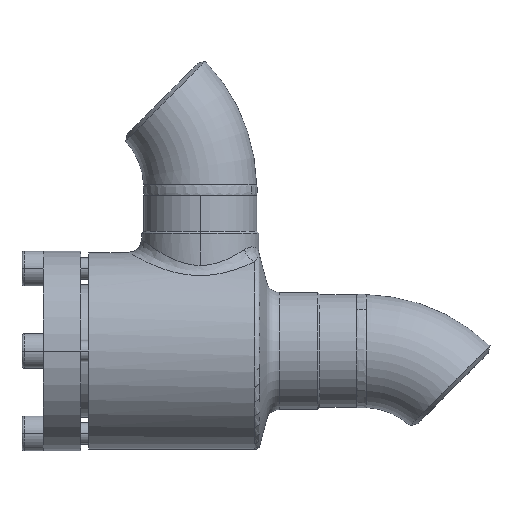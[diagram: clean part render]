
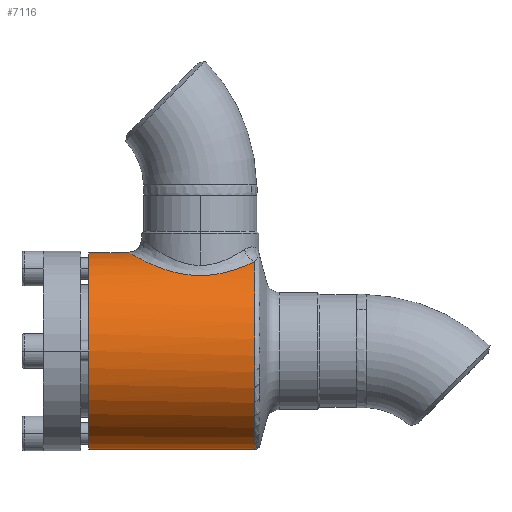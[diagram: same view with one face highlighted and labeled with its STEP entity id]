
A CAD part, left-side view. The second image highlights one B-rep face of the part: STEP entity #7116.
In plain terms, the highlighted cylindrical face has radius 37 mm (diameter 74 mm), a partial arc.
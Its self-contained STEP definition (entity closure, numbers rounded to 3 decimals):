
#16661 = ORIENTED_EDGE ( 'NONE', *, *, #16293, .F. ) ;
#17143 = ORIENTED_EDGE ( 'NONE', *, *, #11555, .T. ) ;
#17626 = EDGE_CURVE ( 'NONE', #18596, #11156, #7359, .T. ) ;
#17697 = CARTESIAN_POINT ( 'NONE',  ( -15.535, -62.446, 33.581 ) ) ;
#17749 = CIRCLE ( 'NONE', #17750, 37. ) ;
#17750 = AXIS2_PLACEMENT_3D ( 'NONE', #17751, #17752, #17753 ) ;
#17751 = CARTESIAN_POINT ( 'NONE',  ( 0., 0., 0. ) ) ;
#17752 = DIRECTION ( 'NONE',  ( 0., 1., 0. ) ) ;
#17753 = DIRECTION ( 'NONE',  ( 0., 0., 1. ) ) ;
#17925 = CIRCLE ( 'NONE', #17926, 37. ) ;
#17926 = AXIS2_PLACEMENT_3D ( 'NONE', #17927, #17928, #17929 ) ;
#17927 = CARTESIAN_POINT ( 'NONE',  ( 0., -62.446, 0. ) ) ;
#17928 = DIRECTION ( 'NONE',  ( 0., 1., 0. ) ) ;
#17929 = DIRECTION ( 'NONE',  ( 0., 0., -1. ) ) ;
#17970 = ORIENTED_EDGE ( 'NONE', *, *, #17626, .T. ) ;
#18043 = CARTESIAN_POINT ( 'NONE',  ( 0., -62.446, -37. ) ) ;
#18596 = VERTEX_POINT ( 'NONE', #17697 ) ;
#18924 = EDGE_CURVE ( 'NONE', #3840, #18596, #17925, .T. ) ;
#3840 = VERTEX_POINT ( 'NONE', #18043 ) ;
#4391 = CARTESIAN_POINT ( 'NONE',  ( 0., 0., 37. ) ) ;
#4533 = ORIENTED_EDGE ( 'NONE', *, *, #18924, .T. ) ;
#5753 = ORIENTED_EDGE ( 'NONE', *, *, #30718, .F. ) ;
#6683 = EDGE_LOOP ( 'NONE', ( #5753, #4533, #17970, #17143, #16661 ) ) ;
#7116 = ADVANCED_FACE ( 'NONE', ( #15416 ), #15417, .T. ) ;
#7359 = B_SPLINE_CURVE_WITH_KNOTS ( 'NONE', 3,
 ( #7360, #7361, #7379, #7380, #7381, #7382, #7383, #7384, #7385, #7386, #7387, #7388, #7389, #7390, #7391, #7392, #7393, #7394, #7411, #7412, #7413, #7414, #7415, #7416, #7417, #7418, #7419, #7420, #7421, #7422, #7423, #7424, #7425, #7426, #7446, #7447, #7448, #7449, #7450, #7451, #7452, #7453, #7454, #7455, #7456, #7457, #7458, #7459 ),
 .UNSPECIFIED., .F., .F.,
 ( 4, 2, 2, 2, 2, 2, 2, 2, 2, 2, 2, 2, 2, 2, 2, 2, 2, 2, 2, 2, 2, 2, 2, 4 ),
 ( 0., 0.004, 0.008, 0.01, 0.012, 0.016, 0.018, 0.02, 0.024, 0.026, 0.028, 0.03, 0.032, 0.036, 0.04, 0.042, 0.044, 0.048, 0.05, 0.052, 0.056, 0.058, 0.06, 0.064 ),
 .UNSPECIFIED. ) ;
#7360 = CARTESIAN_POINT ( 'NONE',  ( -15.535, -62.446, 33.581 ) ) ;
#7361 = CARTESIAN_POINT ( 'NONE',  ( -16.452, -61.548, 33.157 ) ) ;
#7379 = CARTESIAN_POINT ( 'NONE',  ( -17.286, -60.594, 32.725 ) ) ;
#7380 = CARTESIAN_POINT ( 'NONE',  ( -18.811, -58.577, 31.873 ) ) ;
#7381 = CARTESIAN_POINT ( 'NONE',  ( -19.502, -57.514, 31.452 ) ) ;
#7382 = CARTESIAN_POINT ( 'NONE',  ( -20.434, -55.835, 30.848 ) ) ;
#7383 = CARTESIAN_POINT ( 'NONE',  ( -20.728, -55.259, 30.65 ) ) ;
#7384 = CARTESIAN_POINT ( 'NONE',  ( -21.277, -54.088, 30.272 ) ) ;
#7385 = CARTESIAN_POINT ( 'NONE',  ( -21.531, -53.494, 30.092 ) ) ;
#7386 = CARTESIAN_POINT ( 'NONE',  ( -22.233, -51.685, 29.581 ) ) ;
#7387 = CARTESIAN_POINT ( 'NONE',  ( -22.624, -50.442, 29.28 ) ) ;
#7388 = CARTESIAN_POINT ( 'NONE',  ( -23.09, -48.518, 28.912 ) ) ;
#7389 = CARTESIAN_POINT ( 'NONE',  ( -23.225, -47.864, 28.803 ) ) ;
#7390 = CARTESIAN_POINT ( 'NONE',  ( -23.453, -46.548, 28.618 ) ) ;
#7391 = CARTESIAN_POINT ( 'NONE',  ( -23.545, -45.887, 28.542 ) ) ;
#7392 = CARTESIAN_POINT ( 'NONE',  ( -23.756, -43.897, 28.367 ) ) ;
#7393 = CARTESIAN_POINT ( 'NONE',  ( -23.81, -42.56, 28.321 ) ) ;
#7394 = CARTESIAN_POINT ( 'NONE',  ( -23.758, -40.538, 28.365 ) ) ;
#7411 = CARTESIAN_POINT ( 'NONE',  ( -23.718, -39.862, 28.398 ) ) ;
#7412 = CARTESIAN_POINT ( 'NONE',  ( -23.596, -38.528, 28.5 ) ) ;
#7413 = CARTESIAN_POINT ( 'NONE',  ( -23.513, -37.867, 28.569 ) ) ;
#7414 = CARTESIAN_POINT ( 'NONE',  ( -23.304, -36.555, 28.739 ) ) ;
#7415 = CARTESIAN_POINT ( 'NONE',  ( -23.179, -35.905, 28.84 ) ) ;
#7416 = CARTESIAN_POINT ( 'NONE',  ( -22.886, -34.615, 29.073 ) ) ;
#7417 = CARTESIAN_POINT ( 'NONE',  ( -22.718, -33.974, 29.205 ) ) ;
#7418 = CARTESIAN_POINT ( 'NONE',  ( -22.153, -32.08, 29.639 ) ) ;
#7419 = CARTESIAN_POINT ( 'NONE',  ( -21.7, -30.866, 29.975 ) ) ;
#7420 = CARTESIAN_POINT ( 'NONE',  ( -20.645, -28.526, 30.712 ) ) ;
#7421 = CARTESIAN_POINT ( 'NONE',  ( -20.043, -27.4, 31.112 ) ) ;
#7422 = CARTESIAN_POINT ( 'NONE',  ( -19.02, -25.773, 31.74 ) ) ;
#7423 = CARTESIAN_POINT ( 'NONE',  ( -18.66, -25.243, 31.953 ) ) ;
#7424 = CARTESIAN_POINT ( 'NONE',  ( -17.908, -24.217, 32.381 ) ) ;
#7425 = CARTESIAN_POINT ( 'NONE',  ( -17.515, -23.72, 32.595 ) ) ;
#7426 = CARTESIAN_POINT ( 'NONE',  ( -16.284, -22.274, 33.237 ) ) ;
#7446 = CARTESIAN_POINT ( 'NONE',  ( -15.395, -21.372, 33.662 ) ) ;
#7447 = CARTESIAN_POINT ( 'NONE',  ( -13.943, -20.115, 34.276 ) ) ;
#7448 = CARTESIAN_POINT ( 'NONE',  ( -13.437, -19.71, 34.478 ) ) ;
#7449 = CARTESIAN_POINT ( 'NONE',  ( -12.398, -18.947, 34.865 ) ) ;
#7450 = CARTESIAN_POINT ( 'NONE',  ( -11.864, -18.588, 35.051 ) ) ;
#7451 = CARTESIAN_POINT ( 'NONE',  ( -10.215, -17.575, 35.581 ) ) ;
#7452 = CARTESIAN_POINT ( 'NONE',  ( -9.054, -16.989, 35.897 ) ) ;
#7453 = CARTESIAN_POINT ( 'NONE',  ( -7.207, -16.258, 36.297 ) ) ;
#7454 = CARTESIAN_POINT ( 'NONE',  ( -6.575, -16.041, 36.417 ) ) ;
#7455 = CARTESIAN_POINT ( 'NONE',  ( -5.29, -15.666, 36.626 ) ) ;
#7456 = CARTESIAN_POINT ( 'NONE',  ( -4.64, -15.508, 36.714 ) ) ;
#7457 = CARTESIAN_POINT ( 'NONE',  ( -2.677, -15.129, 36.926 ) ) ;
#7458 = CARTESIAN_POINT ( 'NONE',  ( -1.349, -15., 37. ) ) ;
#7459 = CARTESIAN_POINT ( 'NONE',  ( 0., -15., 37. ) ) ;
#8680 = CARTESIAN_POINT ( 'NONE',  ( 0., -15., 37. ) ) ;
#9371 = LINE ( 'NONE', #9372, #9373 ) ;
#9372 = CARTESIAN_POINT ( 'NONE',  ( 0., -68., 37. ) ) ;
#9373 = VECTOR ( 'NONE', #9374, 1000. ) ;
#9374 = DIRECTION ( 'NONE',  ( 0., 1., 0. ) ) ;
#11156 = VERTEX_POINT ( 'NONE', #8680 ) ;
#11555 = EDGE_CURVE ( 'NONE', #11156, #13144, #9371, .T. ) ;
#13144 = VERTEX_POINT ( 'NONE', #4391 ) ;
#30320 = VERTEX_POINT ( 'NONE', #15021 ) ;
#30718 = EDGE_CURVE ( 'NONE', #3840, #30320, #15383, .T. ) ;
#15021 = CARTESIAN_POINT ( 'NONE',  ( 0., 0., -37. ) ) ;
#15383 = LINE ( 'NONE', #15384, #15385 ) ;
#15384 = CARTESIAN_POINT ( 'NONE',  ( 0., -68., -37. ) ) ;
#15385 = VECTOR ( 'NONE', #15386, 1000. ) ;
#15386 = DIRECTION ( 'NONE',  ( 0., 1., 0. ) ) ;
#15416 = FACE_OUTER_BOUND ( 'NONE', #6683, .T. ) ;
#15417 = CYLINDRICAL_SURFACE ( 'NONE', #15418, 37. ) ;
#15418 = AXIS2_PLACEMENT_3D ( 'NONE', #15419, #15420, #15421 ) ;
#15419 = CARTESIAN_POINT ( 'NONE',  ( 0., -68., 0. ) ) ;
#15420 = DIRECTION ( 'NONE',  ( 0., 1., 0. ) ) ;
#15421 = DIRECTION ( 'NONE',  ( 0., 0., 1. ) ) ;
#16293 = EDGE_CURVE ( 'NONE', #30320, #13144, #17749, .T. ) ;
